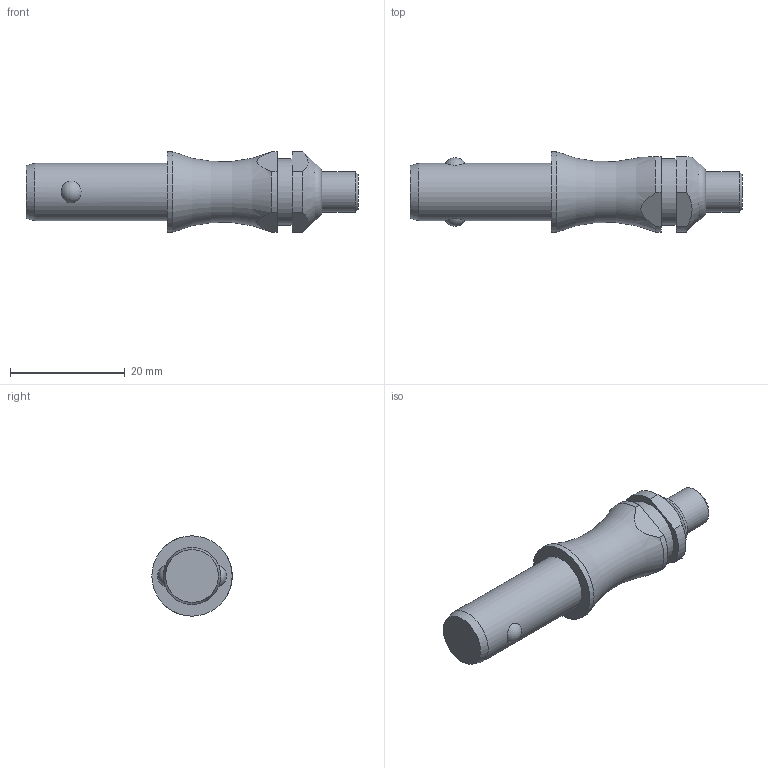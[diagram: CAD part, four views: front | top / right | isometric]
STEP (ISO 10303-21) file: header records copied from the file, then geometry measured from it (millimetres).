
FILE_DESCRIPTION( ( 'STEP AP203' ), '1' );
FILE_NAME( 'C:/Temp/Ganter_Step_05_03_2020/data/3_1/gn113_3/Stainless Steel-Ball lock pin GN 113.3-10-15 (deactivated).stp', '2020-03-12T08:18:30', ( 'License CC BY-ND 4.0' ), ( 'CADENAS' ), ' ', 'PARTsolutions', ' ' );
FILE_SCHEMA( ( 'CONFIG_CONTROL_DESIGN' ) );
Length unit declared in the file: millimetre
Products named in the file (1): _Stainless Steel-Ball lock pin GN 113.3-10-15 (deactivated)
Bounding box: 57.9 x 14 x 14 mm (x, y, z)
Volume: 5157.5 mm3; surface area: 2231.8 mm2
Topology: 1 solids, 1 shells, 28 faces, 60 edges, 39 vertices
Faces by surface type: plane 11, cylinder 10, cone 3, torus 2, sphere 2
Full cylindrical faces by diameter (mm): 7 x1, 10 x1, 11.6 x1, 14 x1
Entity records: 940 total; most frequent: CARTESIAN_POINT 327, DIRECTION 122, ORIENTED_EDGE 98, AXIS2_PLACEMENT_3D 52, EDGE_CURVE 49, EDGE_LOOP 42, VERTEX_POINT 37, FACE_OUTER_BOUND 34
